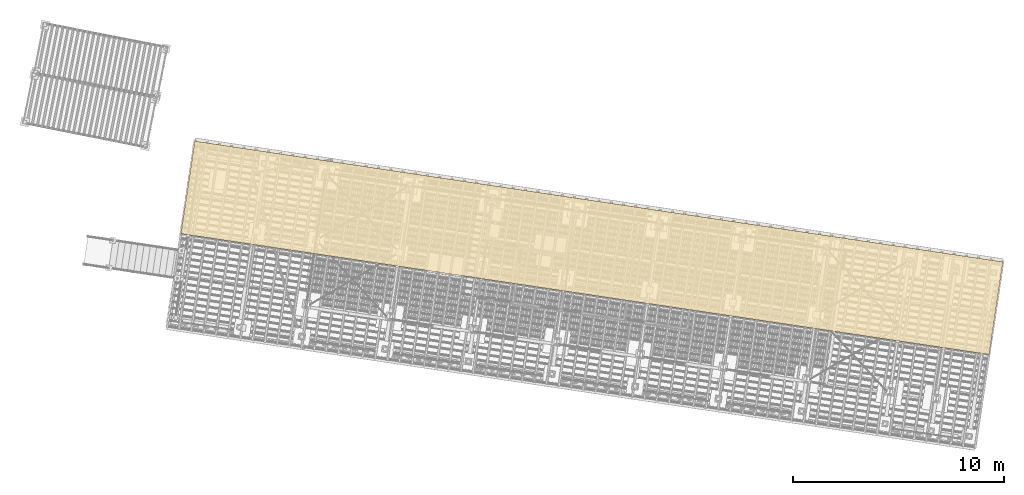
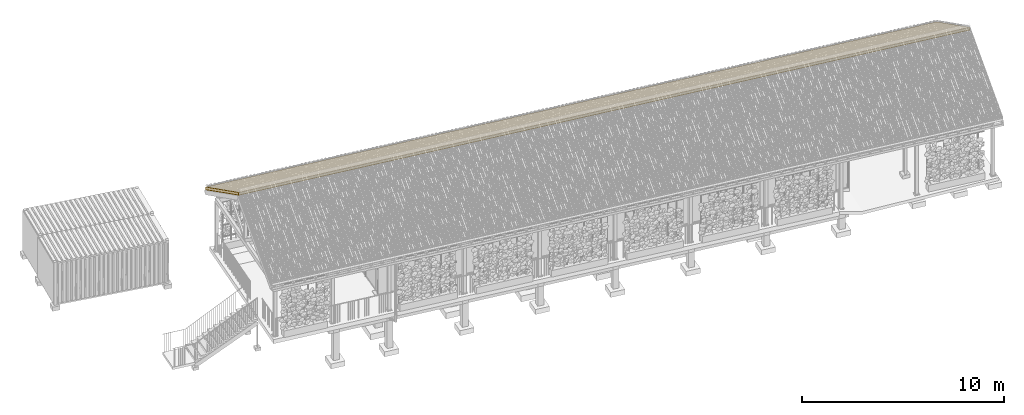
# One storey, part 128 of 131: 3 coverings, 1 element without a shape of its own.
"""IFC4 building model written with IfcOpenShell, lengths in metres."""

import ifcopenshell
import ifcopenshell.guid

model = None  # the IFC model being written
_history = None  # IfcOwnerHistory: only IFC2X3 demands one
_inside = {}  # id of a spatial element -> (the spatial element, [elements in it])
_under = {}  # id of a project, library or spatial element -> (it, [spatial elements below it])
_declared = {}  # id of a project -> (the project, [libraries it declares])
_typed = {}  # id of a type object -> (the type object, [elements of that type])
_made_of = {}  # id of a material, layer set ... -> (it, [elements and type objects made of it])


def new_model(schema):
    """Start an empty IFC model of exactly this schema.

    Asked for "IFC4X3", IfcOpenShell would pick the latest addendum, in which some entities
    have other attributes; the version numbers below select the first issue.
    IFC2X3 requires an IfcOwnerHistory on every rooted entity: one is made here for all.
    """
    global model, _history
    if schema == "IFC4X3":
        model = ifcopenshell.file(schema_version=(4, 3, 0, 0))
    else:
        model = ifcopenshell.file(schema=schema)
    _inside.clear()
    _under.clear()
    _declared.clear()
    _typed.clear()
    _made_of.clear()
    _history = None
    if model.schema == "IFC2X3":
        org = make("IfcOrganization", Name="unknown")
        user = make(
            "IfcPersonAndOrganization",
            ThePerson=make("IfcPerson", FamilyName="unknown"),
            TheOrganization=org,
        )
        app = make(
            "IfcApplication",
            ApplicationDeveloper=org,
            Version="unknown",
            ApplicationFullName="unknown",
            ApplicationIdentifier="unknown",
        )
        _history = make(
            "IfcOwnerHistory",
            OwningUser=user,
            OwningApplication=app,
            ChangeAction="ADDED",
            CreationDate=0,
        )
    return model


def make(cls, **values):
    """One entity of the class cls with the attributes given. An attribute that is None is left unset."""
    return model.create_entity(
        cls, **{name: value for name, value in values.items() if value is not None}
    )


def rooted(cls, **values):
    """An entity with a GlobalId (a new one), such as an element, a storey or a relation."""
    return make(cls, GlobalId=ifcopenshell.guid.new(), OwnerHistory=_history, **values)


def si_unit(unit_type, name, prefix=None):
    """IfcSIUnit, for example si_unit("LENGTHUNIT", "METRE", prefix="MILLI")."""
    return make("IfcSIUnit", UnitType=unit_type, Prefix=prefix, Name=name)


def assignment(units):
    """IfcUnitAssignment: the units of a project."""
    return None if units is None else make("IfcUnitAssignment", Units=units)


def point(xyz):
    """IfcCartesianPoint."""
    return None if xyz is None else make("IfcCartesianPoint", Coordinates=xyz)


def direction(xyz):
    """IfcDirection."""
    return None if xyz is None else make("IfcDirection", DirectionRatios=xyz)


def frame(location, z_axis=None, x_axis=None):
    """IfcAxis2Placement3D, a coordinate frame: its origin and axes. An axis left out is left unset."""
    return make(
        "IfcAxis2Placement3D",
        Location=point(location),
        Axis=direction(z_axis),
        RefDirection=direction(x_axis),
    )


def origin_with_axes():
    """The frame at (0, 0, 0) with the z axis (0, 0, 1) and the x axis (1, 0, 0) written out."""
    return frame((0.0, 0.0, 0.0), z_axis=(0.0, 0.0, 1.0), x_axis=(1.0, 0.0, 0.0))


def place(relative_to, where):
    """IfcLocalPlacement: puts the frame where relative to a parent placement (None: the world)."""
    return make(
        "IfcLocalPlacement", PlacementRelTo=relative_to, RelativePlacement=where
    )


def context(
    kind, dimensions, precision=None, world=None, true_north=None, identifier=None
):
    """IfcGeometricRepresentationContext, for example the 3D "Model" context."""
    return make(
        "IfcGeometricRepresentationContext",
        ContextIdentifier=identifier,
        ContextType=kind,
        CoordinateSpaceDimension=dimensions,
        Precision=precision,
        WorldCoordinateSystem=world,
        TrueNorth=true_north,
    )


def subcontext(parent, identifier, kind, view, scale=None):
    """IfcGeometricRepresentationSubContext, for example "Body" below "Model"."""
    return make(
        "IfcGeometricRepresentationSubContext",
        ContextIdentifier=identifier,
        ContextType=kind,
        ParentContext=parent,
        TargetScale=scale,
        TargetView=view,
    )


def project(units=None, contexts=None):
    """IfcProject with its units and contexts."""
    return rooted(
        "IfcProject",
        Name="project",
        RepresentationContexts=contexts,
        UnitsInContext=assignment(units),
    )


def spatial(cls, under=None, at=None, **own):
    """A site, building, storey or space (cls), placed at a placement, below another one or the project."""
    s = rooted(cls, ObjectPlacement=at, **own)
    if under is not None:
        _under.setdefault(under.id(), (under, []))[1].append(s)
    return s


def polyline(points):
    """IfcPolyline through the points."""
    return make("IfcPolyline", Points=[point(p) for p in points])


def outline(outer, holes=None, kind="AREA"):
    """IfcArbitraryClosedProfileDef: a profile drawn as a closed curve; with holes, ...WithVoids."""
    if holes is None:
        return make("IfcArbitraryClosedProfileDef", ProfileType=kind, OuterCurve=outer)
    return make(
        "IfcArbitraryProfileDefWithVoids",
        ProfileType=kind,
        OuterCurve=outer,
        InnerCurves=holes,
    )


def extrude(swept, where, along, depth):
    """IfcExtrudedAreaSolid: the profile swept, set in the frame where, extruded along a direction by depth."""
    return make(
        "IfcExtrudedAreaSolid",
        SweptArea=swept,
        Position=where,
        ExtrudedDirection=direction(along),
        Depth=depth,
    )


def shape(context_of_items, identifier, shape_type, items):
    """IfcShapeRepresentation: the items that make up one representation, for example the "Body"."""
    return make(
        "IfcShapeRepresentation",
        ContextOfItems=context_of_items,
        RepresentationIdentifier=identifier,
        RepresentationType=shape_type,
        Items=items,
    )


def material(Name=None, Category=None):
    """IfcMaterial."""
    return make("IfcMaterial", Name=Name, Category=Category)


def made_of(thing, what):
    """Note that an element or type object is made of a material, layer set ...; save() writes the relation."""
    if what is not None:
        _made_of.setdefault(what.id(), (what, []))[1].append(thing)
    return thing


def element(
    cls,
    number,
    at=None,
    inside=None,
    cuts=None,
    type_object=None,
    material=None,
    context=None,
    identifier="Body",
    shape_type=None,
    held_by="IfcProductDefinitionShape",
    body=None,
    shapes=None,
    **own,
):
    """One element of the class cls, such as IfcWall. Its Tag is "e" and its number.

    at: its placement. inside: the storey or other place that contains it. cuts: it is an
    opening in that element (IfcRelVoidsElement). A single representation is given by context,
    identifier, shape_type and body (its items); several are given by shapes. held_by: the class
    of the entity that holds the representations. save() writes the other relations.
    """
    e = rooted(cls, Tag="e%d" % number, ObjectPlacement=at, **own)
    if body is not None:
        shapes = [shape(context, identifier, shape_type, body)]
    if shapes is not None:
        e.Representation = make(held_by, Representations=shapes)
    if inside is not None:
        _inside.setdefault(inside.id(), (inside, []))[1].append(e)
    if cuts is not None:
        rooted(
            "IfcRelVoidsElement", RelatingBuildingElement=cuts, RelatedOpeningElement=e
        )
    if type_object is not None:
        _typed.setdefault(type_object.id(), (type_object, []))[1].append(e)
    return made_of(e, material)


def aggregate(whole, parts):
    """IfcRelAggregates: a whole, such as a stair, and the parts it consists of."""
    return rooted("IfcRelAggregates", RelatingObject=whole, RelatedObjects=parts)


def save(model, path):
    """Write the relations noted so far, then the file.

    IfcRelAggregates (storeys below a building ...), IfcRelContainedInSpatialStructure (elements
    in a storey), IfcRelDefinesByType, IfcRelAssociatesMaterial and IfcRelDeclares: one each for
    every whole, place, type object, material and project.
    """
    for whole, parts in _under.values():
        aggregate(whole, parts)
    for where, things in _inside.values():
        rooted(
            "IfcRelContainedInSpatialStructure",
            RelatedElements=things,
            RelatingStructure=where,
        )
    for kind, things in _typed.values():
        rooted("IfcRelDefinesByType", RelatedObjects=things, RelatingType=kind)
    for what, things in _made_of.values():
        rooted("IfcRelAssociatesMaterial", RelatedObjects=things, RelatingMaterial=what)
    for by, libraries in _declared.values():
        rooted("IfcRelDeclares", RelatingContext=by, RelatedDefinitions=libraries)
    model.write(path)


model = new_model("IFC4")

# Units and contexts
model_context = context("Model", 3, precision=1e-05, world=origin_with_axes(), true_north=direction((0.0, 1.0)))
body_context = subcontext(model_context, "Body", "Model", "MODEL_VIEW")
ifc_project = project(units=[si_unit("VOLUMEUNIT", "CUBIC_METRE"), si_unit("LENGTHUNIT", "METRE"), si_unit("AREAUNIT", "SQUARE_METRE")], contexts=[model_context])

# Site, building, storey
site_placement = place(None, origin_with_axes())
site = spatial("IfcSite", under=ifc_project, at=site_placement, Name="Lares · Rua das Mercês · artigo 4771")
building_placement = place(site_placement, frame((15.0, 9.7, 14.65), z_axis=(0.0, 0.0, 1.0), x_axis=(0.989015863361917, -0.147809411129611, 0.0)))
building = spatial("IfcBuilding", under=site, at=building_placement, Name="Casa Sobreposta")
storey_placement = place(building_placement, origin_with_axes())
storey = spatial("IfcBuildingStorey", under=building, at=storey_placement, Name="00 · Habitação e estacionamento", Elevation=14.65)

# Roof, coverings
ifc_material_1 = material(Name="Madeira / Bauholz", Category="wood")
roof_placement = place(storey_placement, origin_with_axes())
roof = element("IfcRoof", 1, at=roof_placement, inside=storey, material=ifc_material_1, Name="Cobertura de telha · duas águas 30 graus", PredefinedType="GABLE_ROOF")
covering_1_placement = place(roof_placement, frame((-6.4, 0.0, 0.0), z_axis=(1.0, 0.0, 0.0), x_axis=(0.0, 1.0, 0.0)))
covering_1 = element("IfcCovering", 2, at=covering_1_placement, material=ifc_material_1, Name="Cobertura · forro de madeira", PredefinedType="CLADDING", context=body_context, shape_type="SweptSolid", body=[
    extrude(outline(polyline([(2.55, 5.88920869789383), (7.0, 3.32), (7.0, 3.34), (2.55, 5.90920869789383), (2.55, 5.88920869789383)])), origin_with_axes(), (0.0, 0.0, 1.0), 38.8),
])
ifc_material_2 = material(Name="Lã mineral / Mineralwolle 2", Category="mineral wool")
covering_2_placement = place(roof_placement, frame((-6.4, 0.0, 0.0), z_axis=(1.0, 0.0, 0.0), x_axis=(0.0, 1.0, 0.0)))
covering_2 = element("IfcCovering", 3, at=covering_2_placement, material=ifc_material_2, Name="Cobertura · isolamento", PredefinedType="INSULATION", context=body_context, shape_type="SweptSolid", body=[
    extrude(outline(polyline([(2.55, 5.90920869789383), (7.0, 3.34), (7.0, 3.5), (2.55, 6.06920869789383), (2.55, 5.90920869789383)])), origin_with_axes(), (0.0, 0.0, 1.0), 38.8),
])
ifc_material_3 = material(Name="Membrana impermeável — hipótese", Category="membrane")
covering_3_placement = place(roof_placement, frame((-6.4, 0.0, 0.0), z_axis=(1.0, 0.0, 0.0), x_axis=(0.0, 1.0, 0.0)))
covering_3 = element("IfcCovering", 4, at=covering_3_placement, material=ifc_material_3, Name="Cobertura · membrana", PredefinedType="MEMBRANE", context=body_context, shape_type="SweptSolid", body=[
    extrude(outline(polyline([(2.55, 6.06920869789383), (7.0, 3.5), (7.0, 3.504), (2.55, 6.07320869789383), (2.55, 6.06920869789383)])), origin_with_axes(), (0.0, 0.0, 1.0), 38.8),
])
aggregate(roof, [covering_1, covering_2, covering_3])

save(model, "model.ifc")
